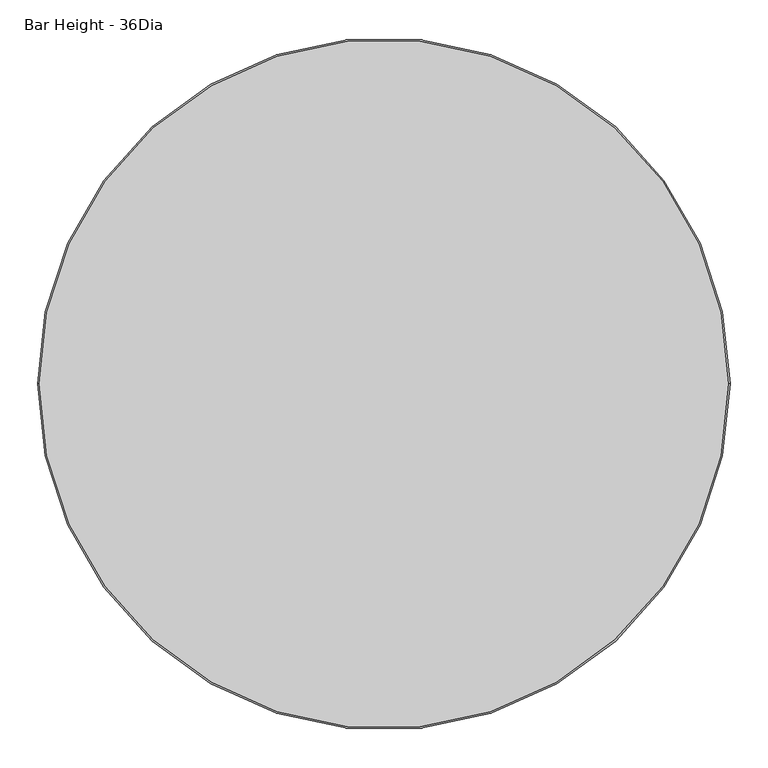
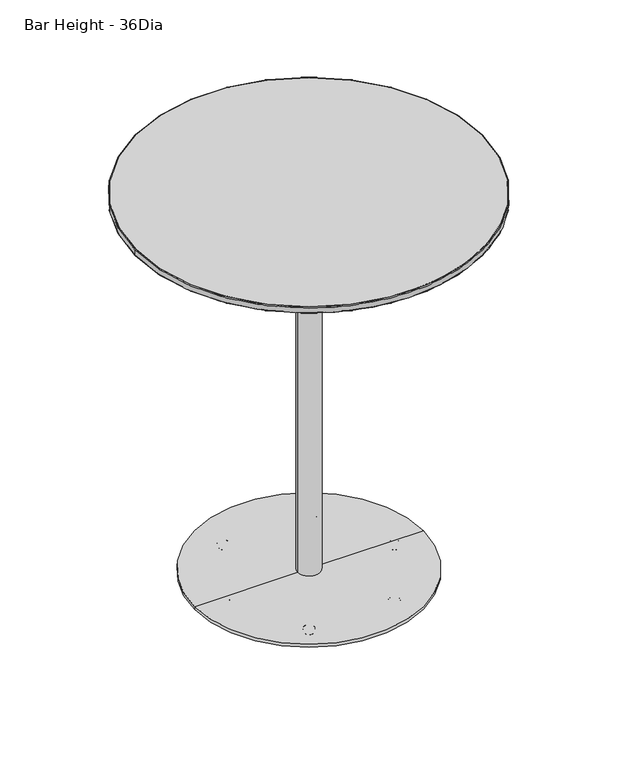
"""IFC4 building model written with IfcOpenShell, lengths in millimetres: furniture geometry, Coalesse_AM_Table_Occasional_Montara650Table_CafeHeight_Round : Bar Height - 36Dia."""

from ifc_helpers import new_model, si_unit, point, frame, origin, origin_with_axes, origin_2d, place, context, project, spatial, polyline, circle_curve, ellipse_curve, trimmed, segment, composite_curve, outline, extrude, source, transform, mapped, element, save
from ifc_brep_helpers import plane_surface, cylinder_surface, revolved_surface, advanced_brep


def bar_height_36dia_994a4e56(model_context):
    return source(origin(), model_context, "Body", "SolidModel", [
        advanced_brep(
        [(112.3723043, -195.0325848, 0.0), (119.7149467, -202.3752273, 0.0), (105.0296619, -187.6899424, 0.0), (120.2614489, -202.9217294, 0.5718943), (104.4831597, -187.1434403, 0.5718943), (122.560548, -205.2208285, 11.2068005), (102.1840606, -184.8443412, 11.2068005), (122.1455272, -204.8058077, 11.9999882), (102.5990814, -185.259362, 11.9999882), (112.3723043, -195.0325848, 11.9999882)],
        [
            (0, 1),
            (1, 2, circle_curve(frame((112.3723043, -195.0325848, 0.0), z_axis=(0.0, 0.0, -1.0), x_axis=(0.7071067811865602, -0.7071067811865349, 0.0)), 10.3840645)),
            (2, 0),
            (2, 1, circle_curve(frame((112.3723043, -195.0325848, 0.0), z_axis=(0.0, 0.0, -1.0), x_axis=(0.7071067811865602, -0.7071067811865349, 0.0)), 10.3840645)),
            (1, 3, circle_curve(frame((119.7149467, -202.3752273, 0.8081846), z_axis=(-0.7071067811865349, -0.7071067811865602, 0.0), x_axis=(0.7071067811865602, -0.7071067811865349, 0.0)), 0.8081846)),
            (3, 4, circle_curve(frame((112.3723043, -195.0325848, 0.5718943), z_axis=(0.0, 0.0, -1.0), x_axis=(0.7071067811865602, -0.7071067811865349, 0.0)), 11.1569353)),
            (4, 2, circle_curve(frame((105.0296619, -187.6899424, 0.8081846), z_axis=(-0.7071067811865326, -0.7071067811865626, 0.0), x_axis=(-0.7071067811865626, 0.7071067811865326, 0.0)), 0.8081846)),
            (4, 3, circle_curve(frame((112.3723043, -195.0325848, 0.5718943), z_axis=(0.0, 0.0, -1.0), x_axis=(0.7071067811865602, -0.7071067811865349, 0.0)), 11.1569353)),
            (3, 5),
            (5, 6, circle_curve(frame((112.3723043, -195.0325848, 11.2068005), z_axis=(0.0, 0.0, -1.0), x_axis=(0.7071067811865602, -0.7071067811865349, 0.0)), 14.4083524)),
            (6, 4),
            (6, 5, circle_curve(frame((112.3723043, -195.0325848, 11.2068005), z_axis=(0.0, 0.0, -1.0), x_axis=(0.7071067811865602, -0.7071067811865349, 0.0)), 14.4083524)),
            (5, 7, circle_curve(frame((122.1455272, -204.8058077, 11.3862424), z_axis=(-0.7071067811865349, -0.7071067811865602, 0.0), x_axis=(0.7071067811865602, -0.7071067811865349, 0.0)), 0.6137458)),
            (7, 8, circle_curve(frame((112.3723043, -195.0325848, 11.9999882), z_axis=(0.0, 0.0, -1.0), x_axis=(0.7071067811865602, -0.7071067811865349, 0.0)), 13.8214243)),
            (8, 6, circle_curve(frame((102.5990814, -185.259362, 11.3862424), z_axis=(-0.7071067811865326, -0.7071067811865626, 0.0), x_axis=(-0.7071067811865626, 0.7071067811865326, 0.0)), 0.6137458)),
            (8, 7, circle_curve(frame((112.3723043, -195.0325848, 11.9999882), z_axis=(0.0, 0.0, -1.0), x_axis=(0.7071067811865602, -0.7071067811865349, 0.0)), 13.8214243)),
            (7, 9),
            (9, 8),
        ],
        [
            plane_surface(frame((112.3723043, -195.0325848, 0.0), z_axis=(0.0, 0.0, -1.0000000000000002), x_axis=(0.7071067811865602, -0.7071067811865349, 0.0))),
            revolved_surface(trimmed(ellipse_curve(frame((119.7149467, -202.3752273, 0.8081846), z_axis=(0.7071067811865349, 0.7071067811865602, 0.0), x_axis=(0.7071067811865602, -0.7071067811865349, 0.0)), 0.8081846, 0.8081846), [point((120.2614489, -202.9217294, 0.5718943))], [point((119.7149467, -202.3752273, 0.0))], True, "CARTESIAN"), (112.3723043, -195.0325848, 12.2086845), (0.0, 0.0, -1.0)),
            revolved_surface(polyline([(122.560548, -205.2208285, 11.2068005), (120.2614489, -202.9217294, 0.5718943)]), (112.3723043, -195.0325848, 12.2086845), (0.0, 0.0, -1.0)),
            revolved_surface(trimmed(ellipse_curve(frame((122.1455272, -204.8058077, 11.3862424), z_axis=(0.7071067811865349, 0.7071067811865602, 0.0), x_axis=(0.7071067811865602, -0.7071067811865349, 0.0)), 0.6137458, 0.6137458), [point((122.1455272, -204.8058077, 11.9999882))], [point((122.560548, -205.2208285, 11.2068005))], True, "CARTESIAN"), (112.3723043, -195.0325848, 12.2086845), (0.0, 0.0, -1.0)),
            plane_surface(frame((112.3723043, -195.0325848, 11.9999882), z_axis=(0.0, 0.0, 1.0000000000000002), x_axis=(0.7071067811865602, -0.7071067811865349, 0.0))),
        ],
        [
            (0, [[1, 2, 3]]),
            (0, [[-3, 4, -1]]),
            (1, [[-2, 5, 6, 7]]),
            (1, [[-4, -7, 8, -5]]),
            (2, [[-6, 9, 10, 11]]),
            (2, [[-8, -11, 12, -9]]),
            (3, [[-10, 13, 14, 15]]),
            (3, [[-12, -15, 16, -13]]),
            (4, [[-14, 17, 18]]),
            (4, [[-16, -18, -17]]),
        ],
    ),
        advanced_brep(
        [(-104.9597041, -187.5851027, 0.0), (-119.6449889, -202.2703876, 0.0), (-112.3023465, -194.9277451, 0.0), (-104.4132019, -187.0386006, 0.5718943), (-120.1914911, -202.8168897, 0.5718943), (-102.1141028, -184.7395015, 11.2068005), (-122.4905902, -205.1159888, 11.2068005), (-102.5291236, -185.1545223, 11.9999882), (-122.0755694, -204.700968, 11.9999882), (-112.3023465, -194.9277451, 11.9999882)],
        [
            (0, 1, circle_curve(frame((-112.3023465, -194.9277451, 0.0), z_axis=(0.0, 0.0, -1.0), x_axis=(-0.7071067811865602, -0.7071067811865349, 0.0)), 10.3840645)),
            (1, 2),
            (2, 0),
            (1, 0, circle_curve(frame((-112.3023465, -194.9277451, 0.0), z_axis=(0.0, 0.0, -1.0), x_axis=(-0.7071067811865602, -0.7071067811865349, 0.0)), 10.3840645)),
            (3, 4, circle_curve(frame((-112.3023465, -194.9277451, 0.5718943), z_axis=(0.0, 0.0, -1.0), x_axis=(-0.7071067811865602, -0.7071067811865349, 0.0)), 11.1569353)),
            (4, 1, circle_curve(frame((-119.6449889, -202.2703876, 0.8081846), z_axis=(0.7071067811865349, -0.7071067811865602, 0.0), x_axis=(-0.7071067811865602, -0.7071067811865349, 0.0)), 0.8081846)),
            (0, 3, circle_curve(frame((-104.9597041, -187.5851027, 0.8081846), z_axis=(0.7071067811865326, -0.7071067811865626, 0.0), x_axis=(0.7071067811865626, 0.7071067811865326, 0.0)), 0.8081846)),
            (4, 3, circle_curve(frame((-112.3023465, -194.9277451, 0.5718943), z_axis=(0.0, 0.0, -1.0), x_axis=(-0.7071067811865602, -0.7071067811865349, 0.0)), 11.1569353)),
            (5, 6, circle_curve(frame((-112.3023465, -194.9277451, 11.2068005), z_axis=(0.0, 0.0, -1.0), x_axis=(-0.7071067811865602, -0.7071067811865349, 0.0)), 14.4083524)),
            (6, 4),
            (3, 5),
            (6, 5, circle_curve(frame((-112.3023465, -194.9277451, 11.2068005), z_axis=(0.0, 0.0, -1.0), x_axis=(-0.7071067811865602, -0.7071067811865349, 0.0)), 14.4083524)),
            (7, 8, circle_curve(frame((-112.3023465, -194.9277451, 11.9999882), z_axis=(0.0, 0.0, -1.0), x_axis=(-0.7071067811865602, -0.7071067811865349, 0.0)), 13.8214243)),
            (8, 6, circle_curve(frame((-122.0755694, -204.700968, 11.3862424), z_axis=(0.7071067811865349, -0.7071067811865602, 0.0), x_axis=(-0.7071067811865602, -0.7071067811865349, 0.0)), 0.6137458)),
            (5, 7, circle_curve(frame((-102.5291236, -185.1545223, 11.3862424), z_axis=(0.7071067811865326, -0.7071067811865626, 0.0), x_axis=(0.7071067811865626, 0.7071067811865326, 0.0)), 0.6137458)),
            (8, 7, circle_curve(frame((-112.3023465, -194.9277451, 11.9999882), z_axis=(0.0, 0.0, -1.0), x_axis=(-0.7071067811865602, -0.7071067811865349, 0.0)), 13.8214243)),
            (9, 8),
            (7, 9),
        ],
        [
            plane_surface(frame((-112.3023465, -194.9277451, 0.0), z_axis=(0.0, 0.0, -1.0000000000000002), x_axis=(-0.7071067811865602, -0.7071067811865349, 0.0))),
            revolved_surface(trimmed(ellipse_curve(frame((-119.6449889, -202.2703876, 0.8081846), z_axis=(-0.7071067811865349, 0.7071067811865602, 0.0), x_axis=(-0.7071067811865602, -0.7071067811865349, 0.0)), 0.8081846, 0.8081846), [point((-119.6449889, -202.2703876, 0.0))], [point((-120.1914911, -202.8168897, 0.5718943))], True, "CARTESIAN"), (-112.3023465, -194.9277451, 12.2086845), (0.0, 0.0, 1.0)),
            revolved_surface(polyline([(-120.1914911, -202.8168897, 0.5718943), (-122.4905902, -205.1159888, 11.2068005)]), (-112.3023465, -194.9277451, 12.2086845), (0.0, 0.0, 1.0)),
            revolved_surface(trimmed(ellipse_curve(frame((-122.0755694, -204.700968, 11.3862424), z_axis=(-0.7071067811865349, 0.7071067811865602, 0.0), x_axis=(-0.7071067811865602, -0.7071067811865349, 0.0)), 0.6137458, 0.6137458), [point((-122.4905902, -205.1159888, 11.2068005))], [point((-122.0755694, -204.700968, 11.9999882))], True, "CARTESIAN"), (-112.3023465, -194.9277451, 12.2086845), (0.0, 0.0, 1.0)),
            plane_surface(frame((-112.3023465, -194.9277451, 11.9999882), z_axis=(0.0, 0.0, 1.0000000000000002), x_axis=(-0.7071067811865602, -0.7071067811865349, 0.0))),
        ],
        [
            (0, [[1, 2, 3]]),
            (0, [[4, -3, -2]]),
            (1, [[5, 6, -1, 7]]),
            (1, [[8, -7, -4, -6]]),
            (2, [[9, 10, -5, 11]]),
            (2, [[12, -11, -8, -10]]),
            (3, [[13, 14, -9, 15]]),
            (3, [[16, -15, -12, -14]]),
            (4, [[17, -13, 18]]),
            (4, [[-18, -16, -17]]),
        ],
    ),
        advanced_brep(
        [(-112.055175, -184.4898776, 0.0), (-112.055175, -205.2580066, 0.0), (-112.055175, -194.8739421, 0.0), (-112.055175, -183.7170068, 0.5718943), (-112.055175, -206.0308773, 0.5718943), (-112.055175, -180.4655897, 11.2068005), (-112.055175, -209.2822944, 11.2068005), (-112.055175, -181.0525177, 11.9999882), (-112.055175, -208.6953664, 11.9999882), (-112.055175, -194.8739421, 11.9999882)],
        [
            (0, 1, circle_curve(frame((-112.055175, -194.8739421, 0.0), z_axis=(0.0, 0.0, -1.0), x_axis=(0.0, -1.0, 0.0)), 10.3840645)),
            (1, 2),
            (2, 0),
            (1, 0, circle_curve(frame((-112.055175, -194.8739421, 0.0), z_axis=(0.0, 0.0, -1.0), x_axis=(0.0, -1.0, 0.0)), 10.3840645)),
            (3, 4, circle_curve(frame((-112.055175, -194.8739421, 0.5718943), z_axis=(0.0, 0.0, -1.0), x_axis=(0.0, -1.0, 0.0)), 11.1569353)),
            (4, 1, circle_curve(frame((-112.055175, -205.2580066, 0.8081846), z_axis=(1.0, 0.0, 0.0), x_axis=(0.0, -1.0, 0.0)), 0.8081846)),
            (0, 3, circle_curve(frame((-112.055175, -184.4898776, 0.8081846), z_axis=(1.0, 0.0, 0.0), x_axis=(0.0, 1.0, 0.0)), 0.8081846)),
            (4, 3, circle_curve(frame((-112.055175, -194.8739421, 0.5718943), z_axis=(0.0, 0.0, -1.0), x_axis=(0.0, -1.0, 0.0)), 11.1569353)),
            (5, 6, circle_curve(frame((-112.055175, -194.8739421, 11.2068005), z_axis=(0.0, 0.0, -1.0), x_axis=(0.0, -1.0, 0.0)), 14.4083524)),
            (6, 4),
            (3, 5),
            (6, 5, circle_curve(frame((-112.055175, -194.8739421, 11.2068005), z_axis=(0.0, 0.0, -1.0), x_axis=(0.0, -1.0, 0.0)), 14.4083524)),
            (7, 8, circle_curve(frame((-112.055175, -194.8739421, 11.9999882), z_axis=(0.0, 0.0, -1.0), x_axis=(0.0, -1.0, 0.0)), 13.8214243)),
            (8, 6, circle_curve(frame((-112.055175, -208.6953664, 11.3862424), z_axis=(1.0, 0.0, 0.0), x_axis=(0.0, -1.0, 0.0)), 0.6137458)),
            (5, 7, circle_curve(frame((-112.055175, -181.0525177, 11.3862424), z_axis=(1.0, 0.0, 0.0), x_axis=(0.0, 1.0, 0.0)), 0.6137458)),
            (8, 7, circle_curve(frame((-112.055175, -194.8739421, 11.9999882), z_axis=(0.0, 0.0, -1.0), x_axis=(0.0, -1.0, 0.0)), 13.8214243)),
            (9, 8),
            (7, 9),
        ],
        [
            plane_surface(frame((-112.055175, -194.8739421, 0.0), z_axis=(0.0, 0.0, -1.0), x_axis=(0.0, -1.0, 0.0))),
            revolved_surface(trimmed(ellipse_curve(frame((-112.055175, -205.2580066, 0.8081846), z_axis=(-1.0, 0.0, 0.0), x_axis=(0.0, -1.0, 0.0)), 0.8081846, 0.8081846), [point((-112.055175, -205.2580066, 0.0))], [point((-112.055175, -206.0308773, 0.5718943))], True, "CARTESIAN"), (-112.055175, -194.8739421, 12.2086845), (0.0, 0.0, 1.0)),
            revolved_surface(polyline([(-112.055175, -206.0308773, 0.5718943), (-112.055175, -209.2822944, 11.2068005)]), (-112.055175, -194.8739421, 12.2086845), (0.0, 0.0, 1.0)),
            revolved_surface(trimmed(ellipse_curve(frame((-112.055175, -208.6953664, 11.3862424), z_axis=(-1.0, 0.0, 0.0), x_axis=(0.0, -1.0, 0.0)), 0.6137458, 0.6137458), [point((-112.055175, -209.2822944, 11.2068005))], [point((-112.055175, -208.6953664, 11.9999882))], True, "CARTESIAN"), (-112.055175, -194.8739421, 12.2086845), (0.0, 0.0, 1.0)),
            plane_surface(frame((-112.055175, -194.8739421, 11.9999882), z_axis=(0.0, 0.0, 1.0), x_axis=(0.0, -1.0, 0.0))),
        ],
        [
            (0, [[1, 2, 3]]),
            (0, [[4, -3, -2]]),
            (1, [[5, 6, -1, 7]]),
            (1, [[8, -7, -4, -6]]),
            (2, [[9, 10, -5, 11]]),
            (2, [[12, -11, -8, -10]]),
            (3, [[13, 14, -9, 15]]),
            (3, [[16, -15, -12, -14]]),
            (4, [[17, -13, 18]]),
            (4, [[-18, -16, -17]]),
        ],
    ),
        advanced_brep(
        [(214.9060746, 0.0, 0.0), (235.6742036, 0.0, 0.0), (225.2901391, 0.0, 0.0), (214.1332039, 0.0, 0.5718943), (236.4470744, 0.0, 0.5718943), (210.8817867, 0.0, 11.2068005), (239.6984915, 0.0, 11.2068005), (211.4687148, 0.0, 11.9999882), (239.1115635, 0.0, 11.9999882), (225.2901391, 0.0, 11.9999882)],
        [
            (0, 1, circle_curve(frame((225.2901391, 0.0, 0.0), z_axis=(0.0, 0.0, -1.0), x_axis=(1.0, 0.0, 0.0)), 10.3840645)),
            (1, 2),
            (2, 0),
            (1, 0, circle_curve(frame((225.2901391, 0.0, 0.0), z_axis=(0.0, 0.0, -1.0), x_axis=(1.0, 0.0, 0.0)), 10.3840645)),
            (3, 4, circle_curve(frame((225.2901391, 0.0, 0.5718943), z_axis=(0.0, 0.0, -1.0), x_axis=(1.0, 0.0, 0.0)), 11.1569353)),
            (4, 1, circle_curve(frame((235.6742036, 0.0, 0.8081846), z_axis=(0.0, 1.0, 0.0), x_axis=(1.0, 0.0, 0.0)), 0.8081846)),
            (0, 3, circle_curve(frame((214.9060746, 0.0, 0.8081846), z_axis=(0.0, 1.0, 0.0), x_axis=(-1.0, 0.0, 0.0)), 0.8081846)),
            (4, 3, circle_curve(frame((225.2901391, 0.0, 0.5718943), z_axis=(0.0, 0.0, -1.0), x_axis=(1.0, 0.0, 0.0)), 11.1569353)),
            (5, 6, circle_curve(frame((225.2901391, 0.0, 11.2068005), z_axis=(0.0, 0.0, -1.0), x_axis=(1.0, 0.0, 0.0)), 14.4083524)),
            (6, 4),
            (3, 5),
            (6, 5, circle_curve(frame((225.2901391, 0.0, 11.2068005), z_axis=(0.0, 0.0, -1.0), x_axis=(1.0, 0.0, 0.0)), 14.4083524)),
            (7, 8, circle_curve(frame((225.2901391, 0.0, 11.9999882), z_axis=(0.0, 0.0, -1.0), x_axis=(1.0, 0.0, 0.0)), 13.8214243)),
            (8, 6, circle_curve(frame((239.1115635, 0.0, 11.3862424), z_axis=(0.0, 1.0, 0.0), x_axis=(1.0, 0.0, 0.0)), 0.6137458)),
            (5, 7, circle_curve(frame((211.4687148, 0.0, 11.3862424), z_axis=(0.0, 1.0, 0.0), x_axis=(-1.0, 0.0, 0.0)), 0.6137458)),
            (8, 7, circle_curve(frame((225.2901391, 0.0, 11.9999882), z_axis=(0.0, 0.0, -1.0), x_axis=(1.0, 0.0, 0.0)), 13.8214243)),
            (9, 8),
            (7, 9),
        ],
        [
            plane_surface(frame((225.2901391, 0.0, 0.0), z_axis=(0.0, 0.0, -1.0), x_axis=(1.0, 0.0, 0.0))),
            revolved_surface(trimmed(ellipse_curve(frame((235.6742036, 0.0, 0.8081846), z_axis=(0.0, -1.0, 0.0), x_axis=(1.0, 0.0, 0.0)), 0.8081846, 0.8081846), [point((235.6742036, 0.0, 0.0))], [point((236.4470744, 0.0, 0.5718943))], True, "CARTESIAN"), (225.2901391, 0.0, 12.2086845), (0.0, 0.0, 1.0)),
            revolved_surface(polyline([(236.4470744, 0.0, 0.5718943), (239.6984915, 0.0, 11.2068005)]), (225.2901391, 0.0, 12.2086845), (0.0, 0.0, 1.0)),
            revolved_surface(trimmed(ellipse_curve(frame((239.1115635, 0.0, 11.3862424), z_axis=(0.0, -1.0, 0.0), x_axis=(1.0, 0.0, 0.0)), 0.6137458, 0.6137458), [point((239.6984915, 0.0, 11.2068005))], [point((239.1115635, 0.0, 11.9999882))], True, "CARTESIAN"), (225.2901391, 0.0, 12.2086845), (0.0, 0.0, 1.0)),
            plane_surface(frame((225.2901391, 0.0, 11.9999882), z_axis=(0.0, 0.0, 1.0), x_axis=(1.0, 0.0, 0.0))),
        ],
        [
            (0, [[1, 2, 3]]),
            (0, [[4, -3, -2]]),
            (1, [[5, 6, -1, 7]]),
            (1, [[8, -7, -4, -6]]),
            (2, [[9, 10, -5, 11]]),
            (2, [[12, -11, -8, -10]]),
            (3, [[13, 14, -9, 15]]),
            (3, [[16, -15, -12, -14]]),
            (4, [[17, -13, 18]]),
            (4, [[-18, -16, -17]]),
        ],
    ),
        advanced_brep(
        [(102.9986415, 175.7657839, 0.0), (117.6839264, 190.4510688, 0.0), (110.341284, 183.1084263, 0.0), (102.4521394, 175.2192818, 0.5718943), (118.2304285, 190.9975709, 0.5718943), (100.1530403, 172.9201827, 11.2068005), (120.5295276, 193.29667, 11.2068005), (100.5680611, 173.3352035, 11.9999882), (120.1145068, 192.8816492, 11.9999882), (110.341284, 183.1084263, 11.9999882)],
        [
            (0, 1, circle_curve(frame((110.341284, 183.1084263, 0.0), z_axis=(0.0, 0.0, -1.0), x_axis=(0.7071067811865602, 0.7071067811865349, 0.0)), 10.3840645)),
            (1, 2),
            (2, 0),
            (1, 0, circle_curve(frame((110.341284, 183.1084263, 0.0), z_axis=(0.0, 0.0, -1.0), x_axis=(0.7071067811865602, 0.7071067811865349, 0.0)), 10.3840645)),
            (3, 4, circle_curve(frame((110.341284, 183.1084263, 0.5718943), z_axis=(0.0, 0.0, -1.0), x_axis=(0.7071067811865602, 0.7071067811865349, 0.0)), 11.1569353)),
            (4, 1, circle_curve(frame((117.6839264, 190.4510688, 0.8081846), z_axis=(-0.7071067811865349, 0.7071067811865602, 0.0), x_axis=(0.7071067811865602, 0.7071067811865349, 0.0)), 0.8081846)),
            (0, 3, circle_curve(frame((102.9986415, 175.7657839, 0.8081846), z_axis=(-0.7071067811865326, 0.7071067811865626, 0.0), x_axis=(-0.7071067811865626, -0.7071067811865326, 0.0)), 0.8081846)),
            (4, 3, circle_curve(frame((110.341284, 183.1084263, 0.5718943), z_axis=(0.0, 0.0, -1.0), x_axis=(0.7071067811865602, 0.7071067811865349, 0.0)), 11.1569353)),
            (5, 6, circle_curve(frame((110.341284, 183.1084263, 11.2068005), z_axis=(0.0, 0.0, -1.0), x_axis=(0.7071067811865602, 0.7071067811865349, 0.0)), 14.4083524)),
            (6, 4),
            (3, 5),
            (6, 5, circle_curve(frame((110.341284, 183.1084263, 11.2068005), z_axis=(0.0, 0.0, -1.0), x_axis=(0.7071067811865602, 0.7071067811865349, 0.0)), 14.4083524)),
            (7, 8, circle_curve(frame((110.341284, 183.1084263, 11.9999882), z_axis=(0.0, 0.0, -1.0), x_axis=(0.7071067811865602, 0.7071067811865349, 0.0)), 13.8214243)),
            (8, 6, circle_curve(frame((120.1145068, 192.8816492, 11.3862424), z_axis=(-0.7071067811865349, 0.7071067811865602, 0.0), x_axis=(0.7071067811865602, 0.7071067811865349, 0.0)), 0.6137458)),
            (5, 7, circle_curve(frame((100.5680611, 173.3352035, 11.3862424), z_axis=(-0.7071067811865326, 0.7071067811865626, 0.0), x_axis=(-0.7071067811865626, -0.7071067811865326, 0.0)), 0.6137458)),
            (8, 7, circle_curve(frame((110.341284, 183.1084263, 11.9999882), z_axis=(0.0, 0.0, -1.0), x_axis=(0.7071067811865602, 0.7071067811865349, 0.0)), 13.8214243)),
            (9, 8),
            (7, 9),
        ],
        [
            plane_surface(frame((110.341284, 183.1084263, 0.0), z_axis=(0.0, 0.0, -1.0000000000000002), x_axis=(0.7071067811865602, 0.7071067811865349, 0.0))),
            revolved_surface(trimmed(ellipse_curve(frame((117.6839264, 190.4510688, 0.8081846), z_axis=(0.7071067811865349, -0.7071067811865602, 0.0), x_axis=(0.7071067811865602, 0.7071067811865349, 0.0)), 0.8081846, 0.8081846), [point((117.6839264, 190.4510688, 0.0))], [point((118.2304285, 190.9975709, 0.5718943))], True, "CARTESIAN"), (110.341284, 183.1084263, 12.2086845), (0.0, 0.0, 1.0)),
            revolved_surface(polyline([(118.2304285, 190.9975709, 0.5718943), (120.5295276, 193.29667, 11.2068005)]), (110.341284, 183.1084263, 12.2086845), (0.0, 0.0, 1.0)),
            revolved_surface(trimmed(ellipse_curve(frame((120.1145068, 192.8816492, 11.3862424), z_axis=(0.7071067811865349, -0.7071067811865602, 0.0), x_axis=(0.7071067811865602, 0.7071067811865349, 0.0)), 0.6137458, 0.6137458), [point((120.5295276, 193.29667, 11.2068005))], [point((120.1145068, 192.8816492, 11.9999882))], True, "CARTESIAN"), (110.341284, 183.1084263, 12.2086845), (0.0, 0.0, 1.0)),
            plane_surface(frame((110.341284, 183.1084263, 11.9999882), z_axis=(0.0, 0.0, 1.0000000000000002), x_axis=(0.7071067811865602, 0.7071067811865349, 0.0))),
        ],
        [
            (0, [[1, 2, 3]]),
            (0, [[4, -3, -2]]),
            (1, [[5, 6, -1, 7]]),
            (1, [[8, -7, -4, -6]]),
            (2, [[9, 10, -5, 11]]),
            (2, [[12, -11, -8, -10]]),
            (3, [[13, 14, -9, 15]]),
            (3, [[16, -15, -12, -14]]),
            (4, [[17, -13, 18]]),
            (4, [[-18, -16, -17]]),
        ],
    ),
        advanced_brep(
        [(-112.5027991, 194.9473484, 0.0), (-119.8454415, 202.2899909, 0.0), (-105.1601566, 187.604706, 0.0), (-120.3919436, 202.836493, 0.5718943), (-104.6136545, 187.0582039, 0.5718943), (-122.6910427, 205.1355921, 11.2068005), (-102.3145554, 184.7591048, 11.2068005), (-122.2760219, 204.7205713, 11.9999882), (-102.7295762, 185.1741256, 11.9999882), (-112.5027991, 194.9473484, 11.9999882)],
        [
            (0, 1),
            (1, 2, circle_curve(frame((-112.5027991, 194.9473484, 0.0), z_axis=(0.0, 0.0, -1.0), x_axis=(-0.7071067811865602, 0.7071067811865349, 0.0)), 10.3840645)),
            (2, 0),
            (2, 1, circle_curve(frame((-112.5027991, 194.9473484, 0.0), z_axis=(0.0, 0.0, -1.0), x_axis=(-0.7071067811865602, 0.7071067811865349, 0.0)), 10.3840645)),
            (1, 3, circle_curve(frame((-119.8454415, 202.2899909, 0.8081846), z_axis=(0.7071067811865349, 0.7071067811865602, 0.0), x_axis=(-0.7071067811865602, 0.7071067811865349, 0.0)), 0.8081846)),
            (3, 4, circle_curve(frame((-112.5027991, 194.9473484, 0.5718943), z_axis=(0.0, 0.0, -1.0), x_axis=(-0.7071067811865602, 0.7071067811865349, 0.0)), 11.1569353)),
            (4, 2, circle_curve(frame((-105.1601566, 187.604706, 0.8081846), z_axis=(0.7071067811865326, 0.7071067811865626, 0.0), x_axis=(0.7071067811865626, -0.7071067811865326, 0.0)), 0.8081846)),
            (4, 3, circle_curve(frame((-112.5027991, 194.9473484, 0.5718943), z_axis=(0.0, 0.0, -1.0), x_axis=(-0.7071067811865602, 0.7071067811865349, 0.0)), 11.1569353)),
            (3, 5),
            (5, 6, circle_curve(frame((-112.5027991, 194.9473484, 11.2068005), z_axis=(0.0, 0.0, -1.0), x_axis=(-0.7071067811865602, 0.7071067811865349, 0.0)), 14.4083524)),
            (6, 4),
            (6, 5, circle_curve(frame((-112.5027991, 194.9473484, 11.2068005), z_axis=(0.0, 0.0, -1.0), x_axis=(-0.7071067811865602, 0.7071067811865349, 0.0)), 14.4083524)),
            (5, 7, circle_curve(frame((-122.2760219, 204.7205713, 11.3862424), z_axis=(0.7071067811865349, 0.7071067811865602, 0.0), x_axis=(-0.7071067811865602, 0.7071067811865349, 0.0)), 0.6137458)),
            (7, 8, circle_curve(frame((-112.5027991, 194.9473484, 11.9999882), z_axis=(0.0, 0.0, -1.0), x_axis=(-0.7071067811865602, 0.7071067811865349, 0.0)), 13.8214243)),
            (8, 6, circle_curve(frame((-102.7295762, 185.1741256, 11.3862424), z_axis=(0.7071067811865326, 0.7071067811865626, 0.0), x_axis=(0.7071067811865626, -0.7071067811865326, 0.0)), 0.6137458)),
            (8, 7, circle_curve(frame((-112.5027991, 194.9473484, 11.9999882), z_axis=(0.0, 0.0, -1.0), x_axis=(-0.7071067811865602, 0.7071067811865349, 0.0)), 13.8214243)),
            (7, 9),
            (9, 8),
        ],
        [
            plane_surface(frame((-112.5027991, 194.9473484, 0.0), z_axis=(0.0, 0.0, -1.0000000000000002), x_axis=(-0.7071067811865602, 0.7071067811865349, 0.0))),
            revolved_surface(trimmed(ellipse_curve(frame((-119.8454415, 202.2899909, 0.8081846), z_axis=(-0.7071067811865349, -0.7071067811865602, 0.0), x_axis=(-0.7071067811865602, 0.7071067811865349, 0.0)), 0.8081846, 0.8081846), [point((-120.3919436, 202.836493, 0.5718943))], [point((-119.8454415, 202.2899909, 0.0))], True, "CARTESIAN"), (-112.5027991, 194.9473484, 12.2086845), (0.0, 0.0, -1.0)),
            revolved_surface(polyline([(-122.6910427, 205.1355921, 11.2068005), (-120.3919436, 202.836493, 0.5718943)]), (-112.5027991, 194.9473484, 12.2086845), (0.0, 0.0, -1.0)),
            revolved_surface(trimmed(ellipse_curve(frame((-122.2760219, 204.7205713, 11.3862424), z_axis=(-0.7071067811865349, -0.7071067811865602, 0.0), x_axis=(-0.7071067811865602, 0.7071067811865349, 0.0)), 0.6137458, 0.6137458), [point((-122.2760219, 204.7205713, 11.9999882))], [point((-122.6910427, 205.1355921, 11.2068005))], True, "CARTESIAN"), (-112.5027991, 194.9473484, 12.2086845), (0.0, 0.0, -1.0)),
            plane_surface(frame((-112.5027991, 194.9473484, 11.9999882), z_axis=(0.0, 0.0, 1.0000000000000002), x_axis=(-0.7071067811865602, 0.7071067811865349, 0.0))),
        ],
        [
            (0, [[1, 2, 3]]),
            (0, [[-3, 4, -1]]),
            (1, [[-2, 5, 6, 7]]),
            (1, [[-4, -7, 8, -5]]),
            (2, [[-6, 9, 10, 11]]),
            (2, [[-8, -11, 12, -9]]),
            (3, [[-10, 13, 14, 15]]),
            (3, [[-12, -15, 16, -13]]),
            (4, [[-14, 17, 18]]),
            (4, [[-16, -18, -17]]),
        ],
    ),
        advanced_brep(
        [(-225.0355893, 0.0, 0.0), (-235.4196538, 0.0, 0.0), (-214.6515248, 0.0, 0.0), (-236.1925246, 0.0, 0.5718943), (-213.8786541, 0.0, 0.5718943), (-239.4439417, 0.0, 11.2068005), (-210.6272369, 0.0, 11.2068005), (-238.8570136, 0.0, 11.9999882), (-211.214165, 0.0, 11.9999882), (-225.0355893, 0.0, 11.9999882)],
        [
            (0, 1),
            (1, 2, circle_curve(frame((-225.0355893, 0.0, 0.0), z_axis=(0.0, 0.0, -1.0), x_axis=(-1.0, 0.0, 0.0)), 10.3840645)),
            (2, 0),
            (2, 1, circle_curve(frame((-225.0355893, 0.0, 0.0), z_axis=(0.0, 0.0, -1.0), x_axis=(-1.0, 0.0, 0.0)), 10.3840645)),
            (1, 3, circle_curve(frame((-235.4196538, 0.0, 0.8081846), z_axis=(0.0, 1.0, 0.0), x_axis=(-1.0, 0.0, 0.0)), 0.8081846)),
            (3, 4, circle_curve(frame((-225.0355893, 0.0, 0.5718943), z_axis=(0.0, 0.0, -1.0), x_axis=(-1.0, 0.0, 0.0)), 11.1569353)),
            (4, 2, circle_curve(frame((-214.6515248, 0.0, 0.8081846), z_axis=(0.0, 1.0, 0.0), x_axis=(1.0, 0.0, 0.0)), 0.8081846)),
            (4, 3, circle_curve(frame((-225.0355893, 0.0, 0.5718943), z_axis=(0.0, 0.0, -1.0), x_axis=(-1.0, 0.0, 0.0)), 11.1569353)),
            (3, 5),
            (5, 6, circle_curve(frame((-225.0355893, 0.0, 11.2068005), z_axis=(0.0, 0.0, -1.0), x_axis=(-1.0, 0.0, 0.0)), 14.4083524)),
            (6, 4),
            (6, 5, circle_curve(frame((-225.0355893, 0.0, 11.2068005), z_axis=(0.0, 0.0, -1.0), x_axis=(-1.0, 0.0, 0.0)), 14.4083524)),
            (5, 7, circle_curve(frame((-238.8570136, 0.0, 11.3862424), z_axis=(0.0, 1.0, 0.0), x_axis=(-1.0, 0.0, 0.0)), 0.6137458)),
            (7, 8, circle_curve(frame((-225.0355893, 0.0, 11.9999882), z_axis=(0.0, 0.0, -1.0), x_axis=(-1.0, 0.0, 0.0)), 13.8214243)),
            (8, 6, circle_curve(frame((-211.214165, 0.0, 11.3862424), z_axis=(0.0, 1.0, 0.0), x_axis=(1.0, 0.0, 0.0)), 0.6137458)),
            (8, 7, circle_curve(frame((-225.0355893, 0.0, 11.9999882), z_axis=(0.0, 0.0, -1.0), x_axis=(-1.0, 0.0, 0.0)), 13.8214243)),
            (7, 9),
            (9, 8),
        ],
        [
            plane_surface(frame((-225.0355893, 0.0, 0.0), z_axis=(0.0, 0.0, -1.0), x_axis=(-1.0, 0.0, 0.0))),
            revolved_surface(trimmed(ellipse_curve(frame((-235.4196538, 0.0, 0.8081846), z_axis=(0.0, -1.0, 0.0), x_axis=(-1.0, 0.0, 0.0)), 0.8081846, 0.8081846), [point((-236.1925246, 0.0, 0.5718943))], [point((-235.4196538, 0.0, 0.0))], True, "CARTESIAN"), (-225.0355893, 0.0, 12.2086845), (0.0, 0.0, -1.0)),
            revolved_surface(polyline([(-239.4439417, 0.0, 11.2068005), (-236.1925246, 0.0, 0.5718943)]), (-225.0355893, 0.0, 12.2086845), (0.0, 0.0, -1.0)),
            revolved_surface(trimmed(ellipse_curve(frame((-238.8570136, 0.0, 11.3862424), z_axis=(0.0, -1.0, 0.0), x_axis=(-1.0, 0.0, 0.0)), 0.6137458, 0.6137458), [point((-238.8570136, 0.0, 11.9999882))], [point((-239.4439417, 0.0, 11.2068005))], True, "CARTESIAN"), (-225.0355893, 0.0, 12.2086845), (0.0, 0.0, -1.0)),
            plane_surface(frame((-225.0355893, 0.0, 11.9999882), z_axis=(0.0, 0.0, 1.0), x_axis=(-1.0, 0.0, 0.0))),
        ],
        [
            (0, [[1, 2, 3]]),
            (0, [[-3, 4, -1]]),
            (1, [[-2, 5, 6, 7]]),
            (1, [[-4, -7, 8, -5]]),
            (2, [[-6, 9, 10, 11]]),
            (2, [[-8, -11, 12, -9]]),
            (3, [[-10, 13, 14, 15]]),
            (3, [[-12, -15, 16, -13]]),
            (4, [[-14, 17, 18]]),
            (4, [[-16, -18, -17]]),
        ],
    ),
        advanced_brep(
        [(131.5995255, 0.0, 1033.655027), (-131.5995255, 0.0, 1033.655027), (-176.076473, 0.0, 1033.655027), (176.076473, 0.0, 1033.655027), (38.8356016, 0.0, 1017.0899529), (-38.8356016, 0.0, 1017.0899529), (-47.6092868, 0.0, 1017.0899529), (47.6092868, 0.0, 1017.0899529), (29.5495828, 0.0, 19.9999965), (-29.5495828, 0.0, 19.9999965), (-29.5495828, 0.0, 1029.6852036), (29.5495828, 0.0, 1029.6852036), (301.0967005, 0.0, 19.9999965), (-301.0967005, 0.0, 19.9999965), (301.0967005, 0.0, 11.9999882), (-301.0967005, 0.0, 11.9999882), (0.0, 0.0, 11.9999882), (176.076473, 0.0, 1036.830027), (-176.076473, 0.0, 1036.830027), (0.0, 0.0, 1036.830027), (32.5573587, 0.0, 1019.3383874), (-32.5573587, 0.0, 1019.3383874), (30.918584, 0.0, 1029.6852036), (-30.918584, 0.0, 1029.6852036)],
        [
            (0, 1, circle_curve(frame((0.0, 0.0, 1033.655027), z_axis=(0.0, 0.0, 1.0), x_axis=(-1.0, 0.0, 0.0)), 131.5995255)),
            (1, 2),
            (2, 3, circle_curve(frame((0.0, 0.0, 1033.655027), z_axis=(0.0, 0.0, -1.0), x_axis=(-1.0, 0.0, 0.0)), 176.076473)),
            (3, 0),
            (1, 0, circle_curve(frame((0.0, 0.0, 1033.655027), z_axis=(0.0, 0.0, 1.0), x_axis=(-1.0, 0.0, 0.0)), 131.5995255)),
            (3, 2, circle_curve(frame((0.0, 0.0, 1033.655027), z_axis=(0.0, 0.0, -1.0), x_axis=(-1.0, 0.0, 0.0)), 176.076473)),
            (4, 5, circle_curve(frame((0.0, 0.0, 1017.0899529), z_axis=(0.0, 0.0, 1.0), x_axis=(-1.0, 0.0, 0.0)), 38.8356016)),
            (5, 6),
            (6, 7, circle_curve(frame((0.0, 0.0, 1017.0899529), z_axis=(0.0, 0.0, -1.0), x_axis=(-1.0, 0.0, 0.0)), 47.6092868)),
            (7, 4),
            (5, 4, circle_curve(frame((0.0, 0.0, 1017.0899529), z_axis=(0.0, 0.0, 1.0), x_axis=(-1.0, 0.0, 0.0)), 38.8356016)),
            (7, 6, circle_curve(frame((0.0, 0.0, 1017.0899529), z_axis=(0.0, 0.0, -1.0), x_axis=(-1.0, 0.0, 0.0)), 47.6092868)),
            (8, 9, circle_curve(frame((0.0, 0.0, 19.9999965), z_axis=(0.0, 0.0, 1.0), x_axis=(-1.0, 0.0, 0.0)), 29.5495828)),
            (9, 10),
            (10, 11, circle_curve(frame((0.0, 0.0, 1029.6852036), z_axis=(0.0, 0.0, -1.0), x_axis=(-1.0, 0.0, 0.0)), 29.5495828)),
            (11, 8),
            (9, 8, circle_curve(frame((0.0, 0.0, 19.9999965), z_axis=(0.0, 0.0, 1.0), x_axis=(-1.0, 0.0, 0.0)), 29.5495828)),
            (11, 10, circle_curve(frame((0.0, 0.0, 1029.6852036), z_axis=(0.0, 0.0, -1.0), x_axis=(-1.0, 0.0, 0.0)), 29.5495828)),
            (12, 13, circle_curve(frame((0.0, 0.0, 19.9999965), z_axis=(0.0, 0.0, 1.0), x_axis=(-1.0, 0.0, 0.0)), 301.0967005)),
            (13, 9),
            (8, 12),
            (13, 12, circle_curve(frame((0.0, 0.0, 19.9999965), z_axis=(0.0, 0.0, 1.0), x_axis=(-1.0, 0.0, 0.0)), 301.0967005)),
            (14, 15, circle_curve(frame((0.0, 0.0, 11.9999882), z_axis=(0.0, 0.0, 1.0), x_axis=(-1.0, 0.0, 0.0)), 301.0967005)),
            (15, 13),
            (12, 14),
            (15, 14, circle_curve(frame((0.0, 0.0, 11.9999882), z_axis=(0.0, 0.0, 1.0), x_axis=(-1.0, 0.0, 0.0)), 301.0967005)),
            (16, 15),
            (14, 16),
            (17, 18, circle_curve(frame((0.0, 0.0, 1036.830027), z_axis=(0.0, 0.0, 1.0), x_axis=(-1.0, 0.0, 0.0)), 176.076473)),
            (18, 19),
            (19, 17),
            (18, 17, circle_curve(frame((0.0, 0.0, 1036.830027), z_axis=(0.0, 0.0, 1.0), x_axis=(-1.0, 0.0, 0.0)), 176.076473)),
            (2, 18),
            (17, 3),
            (20, 21, circle_curve(frame((0.0, 0.0, 1019.3383874), z_axis=(0.0, 0.0, 1.0), x_axis=(-1.0, 0.0, 0.0)), 32.5573587)),
            (21, 5),
            (4, 20),
            (21, 20, circle_curve(frame((0.0, 0.0, 1019.3383874), z_axis=(0.0, 0.0, 1.0), x_axis=(-1.0, 0.0, 0.0)), 32.5573587)),
            (22, 23, circle_curve(frame((0.0, 0.0, 1029.6852036), z_axis=(0.0, 0.0, 1.0), x_axis=(-1.0, 0.0, 0.0)), 30.918584)),
            (23, 21),
            (20, 22),
            (23, 22, circle_curve(frame((0.0, 0.0, 1029.6852036), z_axis=(0.0, 0.0, 1.0), x_axis=(-1.0, 0.0, 0.0)), 30.918584)),
            (10, 23),
            (22, 11),
            (6, 1),
            (0, 7),
        ],
        [
            plane_surface(frame((0.0, 0.0, 1033.655027), z_axis=(0.0, 0.0, -1.0), x_axis=(-1.0, 0.0, 0.0))),
            plane_surface(frame((0.0, 0.0, 1017.0899529), z_axis=(0.0, 0.0, -1.0), x_axis=(-1.0, 0.0, 0.0))),
            cylinder_surface(frame((0.0, 0.0, 781.9999965), z_axis=(0.0, 0.0, -1.0), x_axis=(-1.0, 0.0, 0.0)), 29.5495828),
            plane_surface(frame((0.0, 0.0, 19.9999965), z_axis=(0.0, 0.0, 1.0), x_axis=(-1.0, 0.0, 0.0))),
            cylinder_surface(frame((0.0, 0.0, 781.9999965), z_axis=(0.0, 0.0, -1.0), x_axis=(-1.0, 0.0, 0.0)), 301.0967005),
            plane_surface(frame((0.0, 0.0, 11.9999882), z_axis=(0.0, 0.0, -1.0), x_axis=(-1.0, 0.0, 0.0))),
            plane_surface(frame((0.0, 0.0, 1036.830027), z_axis=(0.0, 0.0, 1.0), x_axis=(-1.0, 0.0, 0.0))),
            cylinder_surface(frame((0.0, 0.0, 781.9999965), z_axis=(0.0, 0.0, -1.0), x_axis=(-1.0, 0.0, 0.0)), 176.076473),
            revolved_surface(polyline([(-38.8356016, 0.0, 1017.0899529), (-32.5573587, 0.0, 1019.3383874)]), (0.0, 0.0, 781.9999965), (0.0, 0.0, -1.0)),
            revolved_surface(polyline([(-32.5573587, 0.0, 1019.3383874), (-30.918584, 0.0, 1029.6852036)]), (0.0, 0.0, 781.9999965), (0.0, 0.0, -1.0)),
            plane_surface(frame((0.0, 0.0, 1029.6852036), z_axis=(0.0, 0.0, -1.0), x_axis=(-1.0, 0.0, 0.0))),
            revolved_surface(polyline([(-131.5995255, 0.0, 1033.655027), (-47.6092868, 0.0, 1017.0899529)]), (0.0, 0.0, 781.9999965), (0.0, 0.0, -1.0)),
        ],
        [
            (0, [[1, 2, 3, 4]]),
            (0, [[5, -4, 6, -2]]),
            (1, [[7, 8, 9, 10]]),
            (1, [[11, -10, 12, -8]]),
            (2, [[13, 14, 15, 16]]),
            (2, [[17, -16, 18, -14]]),
            (3, [[19, 20, -13, 21]]),
            (3, [[22, -21, -17, -20]]),
            (4, [[23, 24, -19, 25]]),
            (4, [[26, -25, -22, -24]]),
            (5, [[27, -23, 28]]),
            (5, [[-28, -26, -27]]),
            (6, [[29, 30, 31]]),
            (6, [[32, -31, -30]]),
            (7, [[-3, 33, -29, 34]]),
            (7, [[-6, -34, -32, -33]]),
            (8, [[35, 36, -7, 37]]),
            (8, [[38, -37, -11, -36]]),
            (9, [[39, 40, -35, 41]]),
            (9, [[42, -41, -38, -40]]),
            (10, [[-15, 43, -39, 44]]),
            (10, [[-18, -44, -42, -43]]),
            (11, [[-9, 45, -1, 46]]),
            (11, [[-12, -46, -5, -45]]),
        ],
    ),
        advanced_brep(
        [(-391.668, 0.0, 1036.830027), (391.668, 0.0, 1036.830027), (-455.168, 0.0, 1049.095891), (455.168, 0.0, 1049.095891)],
        [
            (0, 1, circle_curve(frame((0.0, 0.0, 1036.830027), z_axis=(0.0, 0.0, -1.0), x_axis=(-1.0, 0.0, 0.0)), 391.668)),
            (1, 0, circle_curve(frame((0.0, 0.0, 1036.830027), z_axis=(0.0, 0.0, -1.0), x_axis=(1.0, 0.0, 0.0)), 391.668)),
            (2, 3, circle_curve(frame((0.0, 0.0, 1049.095891), z_axis=(0.0, 0.0, 1.0), x_axis=(1.0, 0.0, 0.0)), 455.168)),
            (3, 2, circle_curve(frame((0.0, 0.0, 1049.095891), z_axis=(0.0, 0.0, 1.0), x_axis=(-1.0, 0.0, 0.0)), 455.168)),
            (2, 0),
            (1, 3),
        ],
        [
            plane_surface(frame((0.0, 0.0, 1036.830027), z_axis=(0.0, 0.0, -1.0), x_axis=(0.0, -1.0, 0.0))),
            plane_surface(frame((0.0, 0.0, 1049.095891), z_axis=(0.0, 0.0, 1.0), x_axis=(0.0, -1.0, 0.0))),
            revolved_surface(polyline([(391.6679998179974, 0.0, 1036.830027), (455.168, 0.0, 1049.095891)]), (0.0, 0.0, 961.1741781), (0.0, 0.0, 1.0)),
            revolved_surface(polyline([(-391.6679998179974, 0.0, 1036.830027), (-455.168, 0.0, 1049.095891)]), (0.0, 0.0, 961.1741781), (0.0, 0.0, 1.0)),
        ],
        [
            (0, [[1, 2]]),
            (1, [[3, 4]]),
            (2, [[-3, 5, -2, 6]]),
            (3, [[-4, -6, -1, -5]]),
        ],
    ),
        extrude(outline(composite_curve([segment(trimmed(circle_curve(origin_2d(), 455.168), [point((-455.168, 0.0))], [point((455.168, 0.0))], False, "CARTESIAN"), True, "CONTINUOUS"), segment(trimmed(circle_curve(origin_2d(), 455.168), [point((455.168, 0.0))], [point((-455.168, 0.0))], False, "CARTESIAN"), True, "CONTINUOUS")], self_intersect=False)), frame((0.0, 0.0, 1049.095891), z_axis=(0.0, 0.0, 1.0), x_axis=(1.0, 0.0, 0.0)), (0.0, 0.0, 1.0), 17.704109),
        advanced_brep(
        [(457.2438665, 0.0, 1051.0278467), (-457.2438665, 0.0, 1051.0278467), (-455.168, 0.0, 1049.095891), (455.168, 0.0, 1049.095891), (457.2438665, 0.0, 1064.7999283), (-457.2438665, 0.0, 1064.7999283), (455.168, 0.0, 1066.8), (-455.168, 0.0, 1066.8)],
        [
            (0, 1, circle_curve(frame((0.0, 0.0, 1051.0278467), z_axis=(0.0, 0.0, -1.0), x_axis=(-1.0, 0.0, 0.0)), 457.2438665)),
            (1, 2, circle_curve(frame((-455.3069224, 0.0, 1051.0278467), z_axis=(0.0, -1.0, 0.0), x_axis=(1.0, 0.0, 0.0)), 1.9369441)),
            (2, 3, circle_curve(frame((0.0, 0.0, 1049.095891), z_axis=(0.0, 0.0, 1.0), x_axis=(-1.0, 0.0, 0.0)), 455.168)),
            (3, 0, circle_curve(frame((455.3069224, 0.0, 1051.0278467), z_axis=(0.0, -1.0, 0.0), x_axis=(-1.0, 0.0, 0.0)), 1.9369441)),
            (4, 5, circle_curve(frame((0.0, 0.0, 1064.7999283), z_axis=(0.0, 0.0, -1.0), x_axis=(-1.0, 0.0, 0.0)), 457.2438665)),
            (5, 1),
            (0, 4),
            (6, 7, circle_curve(frame((0.0, 0.0, 1066.8), z_axis=(0.0, 0.0, -1.0), x_axis=(-1.0, 0.0, 0.0)), 455.168)),
            (7, 5, circle_curve(frame((-455.2424111, 0.0, 1064.7999283), z_axis=(0.0, -1.0, 0.0), x_axis=(1.0, 0.0, 0.0)), 2.0014554)),
            (4, 6, circle_curve(frame((455.2424111, 0.0, 1064.7999283), z_axis=(0.0, -1.0, 0.0), x_axis=(-1.0, 0.0, 0.0)), 2.0014554)),
            (2, 7),
            (6, 3),
            (1, 0, circle_curve(frame((0.0, 0.0, 1051.0278467), z_axis=(0.0, 0.0, -1.0), x_axis=(1.0, 0.0, 0.0)), 457.2438665)),
            (3, 2, circle_curve(frame((0.0, 0.0, 1049.095891), z_axis=(0.0, 0.0, 1.0), x_axis=(1.0, 0.0, 0.0)), 455.168)),
            (5, 4, circle_curve(frame((0.0, 0.0, 1064.7999283), z_axis=(0.0, 0.0, -1.0), x_axis=(1.0, 0.0, 0.0)), 457.2438665)),
            (7, 6, circle_curve(frame((0.0, 0.0, 1066.8), z_axis=(0.0, 0.0, -1.0), x_axis=(1.0, 0.0, 0.0)), 455.168)),
        ],
        [
            revolved_surface(trimmed(ellipse_curve(frame((-455.3069224, 0.0, 1051.0278467), z_axis=(0.0, 1.0, 0.0), x_axis=(1.0, 0.0, 0.0)), 1.9369441, 1.9369441), [point((-455.168, 0.0, 1049.095891))], [point((-457.2438665, 0.0, 1051.0278467))], True, "CARTESIAN"), (0.0, 0.0, 0.0), (0.0, 0.0, 1.0)),
            cylinder_surface(frame((0.0, 0.0, 0.0), z_axis=(0.0, 0.0, 1.0), x_axis=(-1.0, 0.0, 0.0)), 457.2438665),
            revolved_surface(trimmed(ellipse_curve(frame((-455.2424111, 0.0, 1064.7999283), z_axis=(0.0, 1.0, 0.0), x_axis=(1.0, 0.0, 0.0)), 2.0014554, 2.0014554), [point((-457.2438665, 0.0, 1064.7999283))], [point((-455.168, 0.0, 1066.8))], True, "CARTESIAN"), (0.0, 0.0, 0.0), (0.0, 0.0, 1.0)),
            revolved_surface(polyline([(-455.168, 0.0, 1066.8), (-455.168, 0.0, 1049.095891)]), (0.0, 0.0, 0.0), (0.0, 0.0, 1.0)),
            revolved_surface(trimmed(ellipse_curve(frame((455.3069224, 0.0, 1051.0278467), z_axis=(0.0, -1.0, 0.0), x_axis=(-1.0, 0.0, 0.0)), 1.9369441, 1.9369441), [point((455.168, 0.0, 1049.095891))], [point((457.2438665, 0.0, 1051.0278467))], True, "CARTESIAN"), (0.0, 0.0, 0.0), (0.0, 0.0, 1.0)),
            cylinder_surface(origin_with_axes(), 457.2438665),
            revolved_surface(trimmed(ellipse_curve(frame((455.2424111, 0.0, 1064.7999283), z_axis=(0.0, -1.0, 0.0), x_axis=(-1.0, 0.0, 0.0)), 2.0014554, 2.0014554), [point((457.2438665, 0.0, 1064.7999283))], [point((455.168, 0.0, 1066.8))], True, "CARTESIAN"), (0.0, 0.0, 0.0), (0.0, 0.0, 1.0)),
            revolved_surface(polyline([(455.168, 0.0, 1066.8), (455.168, 0.0, 1049.095891)]), (0.0, 0.0, 0.0), (0.0, 0.0, 1.0)),
        ],
        [
            (0, [[1, 2, 3, 4]]),
            (1, [[5, 6, -1, 7]]),
            (2, [[8, 9, -5, 10]]),
            (3, [[-3, 11, -8, 12]]),
            (4, [[13, -4, 14, -2]]),
            (5, [[15, -7, -13, -6]]),
            (6, [[16, -10, -15, -9]]),
            (7, [[-14, -12, -16, -11]]),
        ],
    ),
    ])


if __name__ == "__main__":
    model = new_model("IFC4")
    model_context = context("Model", 3, world=origin())
    ifc_project = project(units=[si_unit("LENGTHUNIT", "METRE", prefix="MILLI")], contexts=[model_context])
    site = spatial("IfcSite", under=ifc_project)
    building = spatial("IfcBuilding", under=site)
    placement = place(None, origin())
    bar_height_36dia_shape = bar_height_36dia_994a4e56(model_context)
    element("IfcFurniture", 1, ObjectType="Coalesse_AM_Table_Occasional_Montara650Table_CafeHeight_Round : Bar Height - 36Dia", at=placement, inside=building, context=model_context, shape_type="MappedRepresentation", body=[
        mapped(bar_height_36dia_shape, transform((0.0, 0.0, 0.0), x_axis=(1.0, 0.0, 0.0), y_axis=(0.0, 1.0, 0.0), z_axis=(0.0, 0.0, 1.0))),
    ])
    save(model, "model.ifc")
